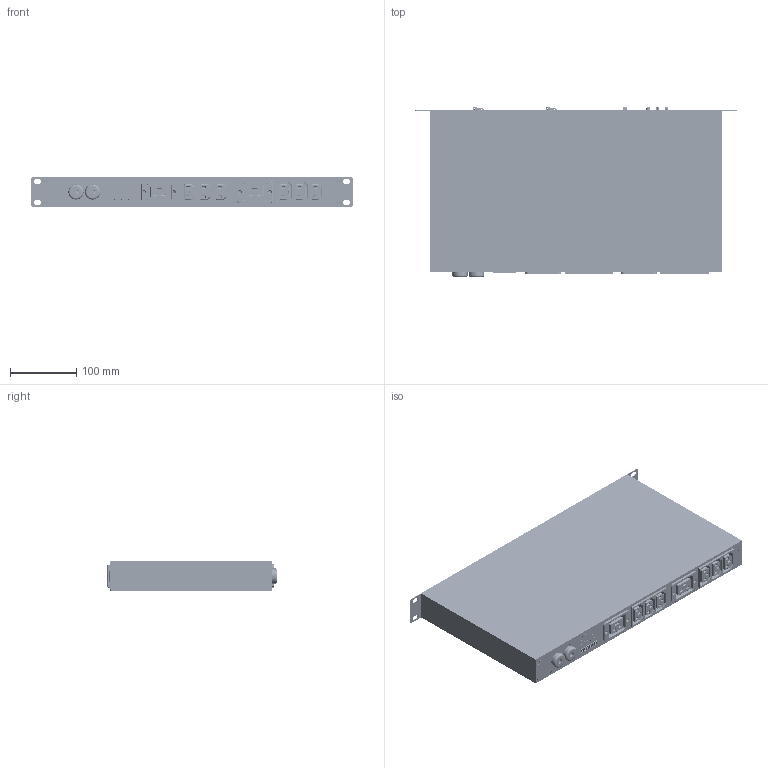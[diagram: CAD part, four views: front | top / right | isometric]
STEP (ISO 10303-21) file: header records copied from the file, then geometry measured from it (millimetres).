
FILE_DESCRIPTION(('STEP AP214'), '1');
FILE_NAME('ATS 1203', '', ('UNSPECIFIED'), ('UNSPECIFIED'), 'ASCON STEP Converter 1.6', 'ASCON Math Kernel', '');
FILE_SCHEMA(('AUTOMOTIVE_DESIGN { 1 0 10303 214 3 1 1}'));
Length unit declared in the file: millimetre
Products named in the file (1): ATS 1203
Bounding box: 486 x 257.58 x 43.9 mm (x, y, z)
Volume: 416055 mm3; surface area: 840796.9 mm2
Topology: 248 solids, 254 shells, 27922 faces, 74511 edges, 47704 vertices
Faces by surface type: plane 13635, bspline 6456, cylinder 5341, cone 1606, torus 620, sphere 264
Full cylindrical faces by diameter (mm): 0.8 x8, 1 x8, 1.5 x24, 2 x1, 2.2 x10, 2.7 x6, 2.75 x24, 3 x2, 3.4 x2, 3.5 x4, 4.22 x1, 4.3 x5, 4.48 x4, 4.6 x32, 5 x6, 5.133 x1, 5.44 x1, 5.5 x6, 7.07 x4
Entity records: 1362974 total; most frequent: CARTESIAN_POINT 543166, ORIENTED_EDGE 147814, DIRECTION 82619, EDGE_CURVE 73928, VERTEX_POINT 47696, B_SPLINE_CURVE_WITH_KNOTS 37116, LINE 30915, VECTOR 30915
